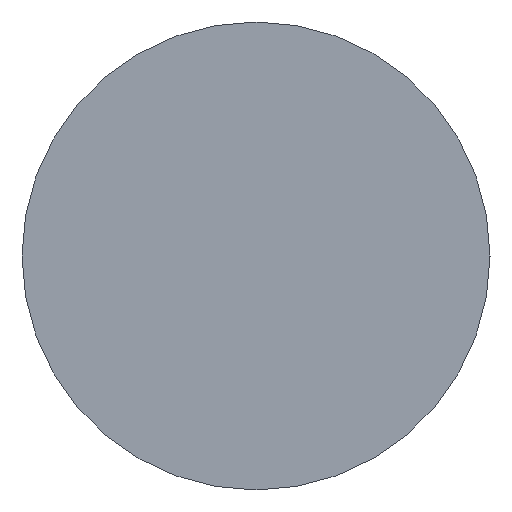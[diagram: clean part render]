
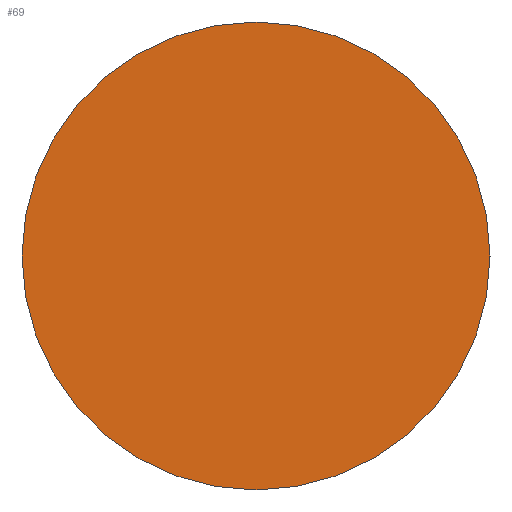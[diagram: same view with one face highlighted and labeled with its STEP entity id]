
A CAD part, left-side view. The second image highlights one B-rep face of the part: STEP entity #69.
In plain terms, the highlighted planar face has unit normal (-1, 0, 0).
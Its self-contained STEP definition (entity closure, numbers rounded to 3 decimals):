
#63=PLANE('',#371);
#69=ADVANCED_FACE('',(#90),#63,.T.);
#90=FACE_OUTER_BOUND('',#111,.F.);
#111=EDGE_LOOP('',(#138,#139));
#138=ORIENTED_EDGE('',*,*,#265,.F.);
#139=ORIENTED_EDGE('',*,*,#262,.F.);
#262=EDGE_CURVE('',#337,#336,#302,.T.);
#265=EDGE_CURVE('',#336,#337,#303,.T.);
#302=CIRCLE('',#352,21.);
#303=CIRCLE('',#353,21.);
#336=VERTEX_POINT('',#519);
#337=VERTEX_POINT('',#520);
#352=AXIS2_PLACEMENT_3D('',#533,#406,#407);
#353=AXIS2_PLACEMENT_3D('',#536,#410,#411);
#371=AXIS2_PLACEMENT_3D('',#568,#460,#461);
#406=DIRECTION('',(-1.,0.,0.));
#407=DIRECTION('',(0.,0.,-1.));
#410=DIRECTION('',(-1.,0.,0.));
#411=DIRECTION('',(0.,0.,1.));
#460=DIRECTION('',(-1.,0.,0.));
#461=DIRECTION('',(0.,1.,0.));
#519=CARTESIAN_POINT('',(-380.458,-13.33,-722.185));
#520=CARTESIAN_POINT('',(-380.458,-13.33,-764.185));
#533=CARTESIAN_POINT('',(-380.458,-13.33,-743.185));
#536=CARTESIAN_POINT('',(-380.458,-13.33,-743.185));
#568=CARTESIAN_POINT('',(-380.458,-34.75,-721.765));
